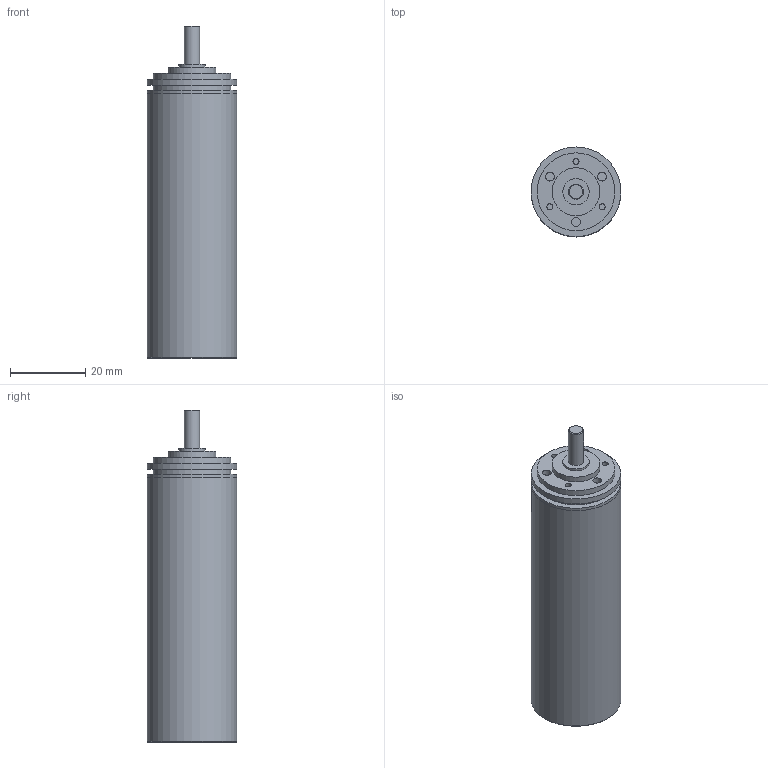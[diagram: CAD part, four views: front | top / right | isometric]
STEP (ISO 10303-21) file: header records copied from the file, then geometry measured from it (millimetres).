
FILE_DESCRIPTION(/* description */ (''),/* implementation_level */ '2;1');
FILE_NAME(/* name */ '22-2_13.stp',/* time_stamp */ '2016-08-26T11:22:42+02:00',/* author */ ('DR. FRITZ FAULHABER GmbH & Co. KG'),/* organization */ ('DR. FRITZ FAULHABER GmbH & Co. KG'),/* preprocessor_version */ 'ST-DEVELOPER v16',/* originating_system */ 'SIEMENS PLM Software NX 10.0',/* authorisation */ '');
FILE_SCHEMA (('AUTOMOTIVE_DESIGN { 1 0 10303 214 3 1 1 1 }'));
Length unit declared in the file: millimetre
Products named in the file (1): H00000869_A
Bounding box: 23.8 x 23.8 x 88.1 mm (x, y, z)
Volume: 25733.6 mm3; surface area: 8613.7 mm2
Topology: 1 solids, 1 shells, 42 faces, 65 edges, 43 vertices
Faces by surface type: plane 20, cylinder 19, cone 3
Full cylindrical faces by diameter (mm): 1.6 x3, 2.329 x3, 3.5 x1, 4 x1, 4.5 x1, 7 x2, 12.7 x1, 20.63 x2, 22 x1, 23.79 x1, 23.8 x3
Entity records: 858 total; most frequent: DIRECTION 168, CARTESIAN_POINT 125, AXIS2_PLACEMENT_3D 84, EDGE_LOOP 82, ORIENTED_EDGE 82, FACE_BOUND 74, ADVANCED_FACE 42, VERTEX_POINT 41
